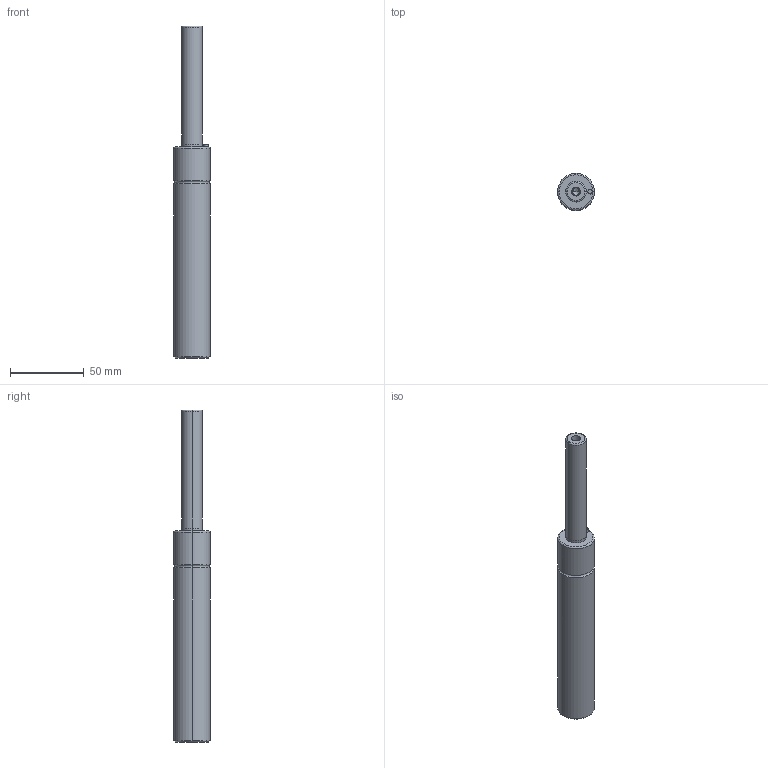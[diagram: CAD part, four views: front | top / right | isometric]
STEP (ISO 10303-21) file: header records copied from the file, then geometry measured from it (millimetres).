
FILE_DESCRIPTION(/* description */ (''),/* implementation_level */ '2;1');
FILE_NAME(/* name */ '3d_gsm25-80_03942_r00.stp',/* time_stamp */ '2011-01-10T14:15:17+09:00',/* author */ ('MISUMI'),/* organization */ (''),/* preprocessor_version */ 'ST-DEVELOPER v11',/* originating_system */ 'UGS - NX 5.0',/* authorisation */ '');
FILE_SCHEMA (('CONFIG_CONTROL_DESIGN'));
Length unit declared in the file: millimetre
Products named in the file (1): 3d_gsm25-80_03942_r00
Bounding box: 25 x 25 x 225 mm (x, y, z)
Volume: 82106.5 mm3; surface area: 16179.2 mm2
Topology: 1 solids, 1 shells, 36 faces, 74 edges, 42 vertices
Faces by surface type: cylinder 18, cone 6, plane 6, torus 6
Entity records: 1014 total; most frequent: DIRECTION 190, CARTESIAN_POINT 149, ORIENTED_EDGE 140, AXIS2_PLACEMENT_3D 83, EDGE_CURVE 70, CIRCLE 46, EDGE_LOOP 42, VERTEX_POINT 42
